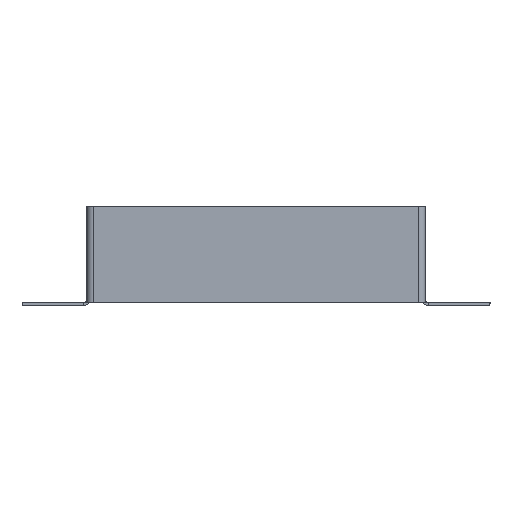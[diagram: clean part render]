
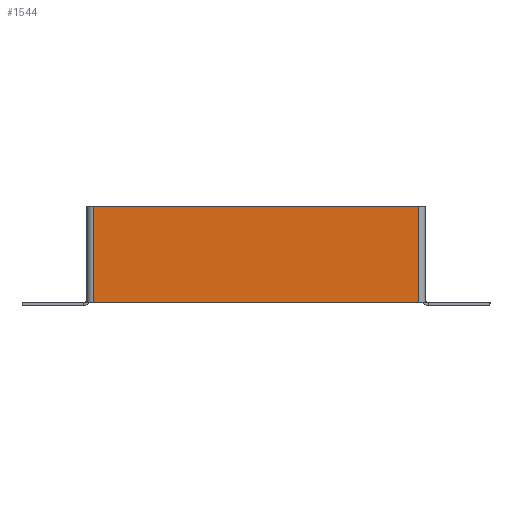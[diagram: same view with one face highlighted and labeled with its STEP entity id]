
A CAD part, front view. The second image highlights one B-rep face of the part: STEP entity #1544.
In plain terms, the highlighted planar face has unit normal (0, -1, 0).
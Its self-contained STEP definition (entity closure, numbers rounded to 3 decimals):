
#13 = CARTESIAN_POINT ( 'NONE',  ( 98., -2., 0. ) ) ;
#51 = CARTESIAN_POINT ( 'NONE',  ( 0., -2., 0. ) ) ;
#224 = VERTEX_POINT ( 'NONE', #5902 ) ;
#277 = ORIENTED_EDGE ( 'NONE', *, *, #4151, .F. ) ;
#503 = FACE_OUTER_BOUND ( 'NONE', #3870, .T. ) ;
#549 = LINE ( 'NONE', #1700, #4260 ) ;
#1180 = CARTESIAN_POINT ( 'NONE',  ( -98., -2., 0. ) ) ;
#1469 = VERTEX_POINT ( 'NONE', #1180 ) ;
#1531 = VERTEX_POINT ( 'NONE', #8012 ) ;
#1544 = ADVANCED_FACE ( 'NONE', ( #503 ), #5547, .F. ) ;
#1637 = EDGE_CURVE ( 'NONE', #224, #1531, #4692, .T. ) ;
#1700 = CARTESIAN_POINT ( 'NONE',  ( -98., -2., 0. ) ) ;
#1797 = VECTOR ( 'NONE', #5697, 1000. ) ;
#1915 = DIRECTION ( 'NONE',  ( 0., 0., 1. ) ) ;
#2017 = LINE ( 'NONE', #7438, #2812 ) ;
#2394 = ORIENTED_EDGE ( 'NONE', *, *, #1637, .F. ) ;
#2812 = VECTOR ( 'NONE', #6709, 1000. ) ;
#3827 = DIRECTION ( 'NONE',  ( 0., 1., 0. ) ) ;
#3870 = EDGE_LOOP ( 'NONE', ( #5567, #2394, #7234, #277 ) ) ;
#4151 = EDGE_CURVE ( 'NONE', #1469, #6357, #6458, .T. ) ;
#4179 = DIRECTION ( 'NONE',  ( 0., 0., -1. ) ) ;
#4260 = VECTOR ( 'NONE', #4179, 1000. ) ;
#4390 = CARTESIAN_POINT ( 'NONE',  ( -100., -2., -58. ) ) ;
#4692 = LINE ( 'NONE', #4390, #6029 ) ;
#5031 = CARTESIAN_POINT ( 'NONE',  ( -100., -2., 0. ) ) ;
#5067 = EDGE_CURVE ( 'NONE', #1469, #1531, #549, .T. ) ;
#5547 = PLANE ( 'NONE',  #7318 ) ;
#5567 = ORIENTED_EDGE ( 'NONE', *, *, #5067, .T. ) ;
#5642 = DIRECTION ( 'NONE',  ( -1., 0., 0. ) ) ;
#5697 = DIRECTION ( 'NONE',  ( 1., 0., 0. ) ) ;
#5902 = CARTESIAN_POINT ( 'NONE',  ( 98., -2., -58. ) ) ;
#6029 = VECTOR ( 'NONE', #5642, 1000. ) ;
#6357 = VERTEX_POINT ( 'NONE', #13 ) ;
#6458 = LINE ( 'NONE', #5031, #1797 ) ;
#6709 = DIRECTION ( 'NONE',  ( 0., 0., 1. ) ) ;
#7213 = EDGE_CURVE ( 'NONE', #224, #6357, #2017, .T. ) ;
#7234 = ORIENTED_EDGE ( 'NONE', *, *, #7213, .T. ) ;
#7318 = AXIS2_PLACEMENT_3D ( 'NONE', #51, #3827, #1915 ) ;
#7438 = CARTESIAN_POINT ( 'NONE',  ( 98., -2., -58. ) ) ;
#8012 = CARTESIAN_POINT ( 'NONE',  ( -98., -2., -58. ) ) ;
